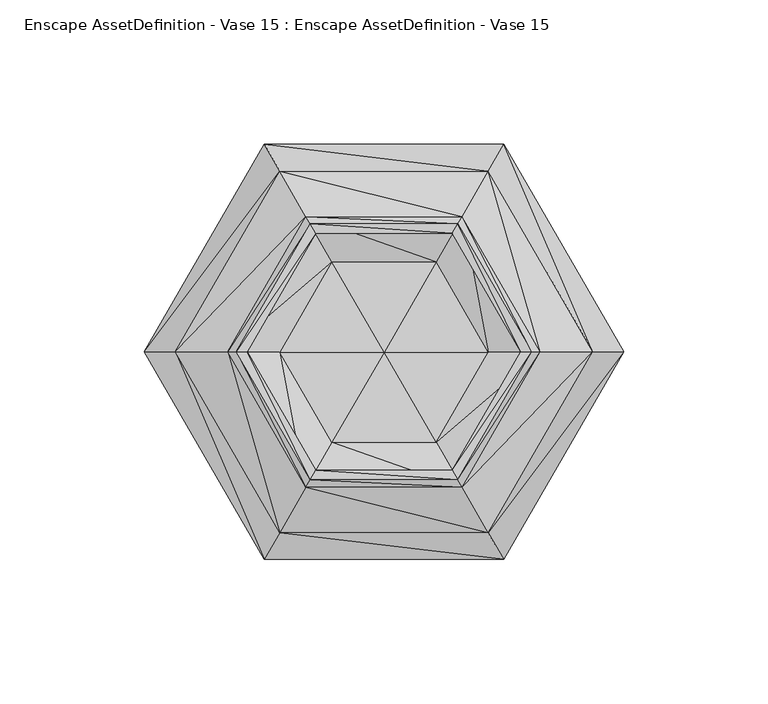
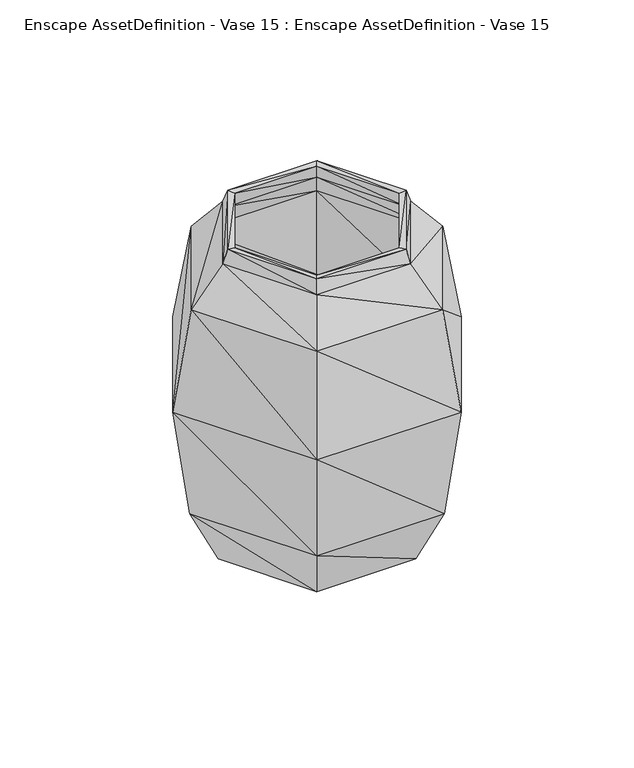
"""IFC4 building model written with IfcOpenShell, lengths in millimetres: geographic element geometry, Enscape AssetDefinition - Vase 15 : Enscape AssetDefinition - Vase 15."""

from ifc_helpers import new_model, si_unit, origin, place, context, project, spatial, faceted_brep, source, transform, mapped, element, save


def enscape_assetdefinition_vase_15_enscape_assetdefinition_vase_f9fe4993(model_context):
    return source(origin(), model_context, "Body", "Brep", [
        faceted_brep([(41.4660014, 71.8209967, 111.575), (72.2159967, 0.0, 170.055002), (82.930997, 0.0, 111.575), (36.1079983, 62.5410005, 170.055002), (36.1079983, -62.5410005, 170.055002), (54.0199988, 0.0, 191.6279942), (27.0099994, -46.7830002, 191.6279942), (-41.4660014, 71.8209967, 111.575), (-36.1079983, 62.5410005, 170.055002), (27.0099994, 46.7830002, 191.6279942), (51.1769988, 0.0, 199.3049979), (25.5880002, -44.3199985, 199.3049979), (-27.0099994, -46.7830002, 191.6279942), (-25.5880002, -44.3199985, 199.3049979), (-23.6770008, -41.0090014, 198.8549978), (23.6770008, -41.0090014, 198.8549978), (25.5880002, 44.3199985, 199.3049979), (47.3529994, 0.0, 198.8549978), (-25.2509993, -43.7359996, 189.8580045), (25.2509993, -43.7359996, 189.8580045), (-47.3529994, 0.0, 198.8549978), (-50.5019985, 0.0, 189.8580045), (-68.4949979, 0.0, 168.9410061), (-34.2479981, -59.3190007, 168.9410061), (34.2479981, -59.3190007, 168.9410061), (50.5019985, 0.0, 189.8580045), (-77.9419988, 0.0, 111.8130013), (-38.9709994, -67.4989969, 111.8130013), (-34.2479981, 59.3190007, 168.9410061), (-38.9709994, 67.4989969, 111.8130013), (-34.5849991, 59.9029996, 46.8120016), (-69.1699982, 0.0, 46.8120016), (38.9709994, -67.4989969, 111.8130013), (-34.5849991, -59.9029996, 46.8120016), (-27.2749998, 47.2420007, 15.5490004), (-54.5499995, 0.0, 15.5490004), (34.5849991, 59.9029996, 46.8120016), (27.2749998, 47.2420007, 15.5490004), (18.0539992, 31.2700011, 4.528), (-18.0539992, 31.2700011, 4.528), (-27.2749998, -47.2420007, 15.5490004), (-36.107, 0.0, 4.528), (0.0, 0.0, 4.528), (36.107, 0.0, 4.528), (54.5499995, 0.0, 15.5490004), (18.0539992, -31.2700011, 4.528), (-18.0539992, -31.2700011, 4.528), (27.2749998, -47.2420007, 15.5490004), (34.5849991, -59.9029996, 46.8120016), (69.1699982, 0.0, 46.8120016), (38.9709994, 67.4989969, 111.8130013), (77.9419988, 0.0, 111.8130013), (34.2479981, 59.3190007, 168.9410061), (68.4949979, 0.0, 168.9410061), (25.2509993, 43.7359996, 189.8580045), (-25.2509993, 43.7359996, 189.8580045), (23.6770008, 41.0090014, 198.8549978), (-23.6770008, 41.0090014, 198.8549978), (-25.5880002, 44.3199985, 199.3049979), (-51.1769988, 0.0, 199.3049979), (-27.0099994, 46.7830002, 191.6279942), (-54.0199988, 0.0, 191.6279942), (-72.2159967, 0.0, 170.055002), (-36.1079983, -62.5410005, 170.055002), (-82.930997, 0.0, 111.575), (-41.4660014, -71.8209967, 111.575), (41.4660014, -71.8209967, 111.575), (-36.4959985, -63.2119998, 46.4630015), (36.4959985, -63.2119998, 46.4630015), (-72.9909986, 0.0, 46.4630015), (-28.3950008, -49.1820015, 13.2980002), (28.3950008, -49.1820015, 13.2980002), (56.7900017, 0.0, 13.2980002), (72.9909986, 0.0, 46.4630015), (17.6810008, -30.6240004, 0.011), (35.3620015, 0.0, 0.011), (-56.7900017, 0.0, 13.2980002), (-17.6810008, -30.6240004, 0.011), (0.0, 0.0, 0.011), (17.6810008, 30.6240004, 0.011), (28.3950008, 49.1820015, 13.2980002), (-17.6810008, 30.6240004, 0.011), (-35.3620015, 0.0, 0.011), (-28.3950008, 49.1820015, 13.2980002), (-36.4959985, 63.2119998, 46.4630015), (36.4959985, 63.2119998, 46.4630015)], [[[0, 1, 2]], [[3, 1, 0]], [[1, 4, 2]], [[3, 5, 1]], [[1, 6, 4]], [[5, 6, 1]], [[7, 3, 0]], [[8, 3, 7]], [[9, 5, 3]], [[8, 9, 3]], [[9, 10, 5]], [[5, 11, 6]], [[10, 11, 5]], [[6, 12, 4]], [[6, 13, 12]], [[11, 13, 6]], [[11, 14, 13]], [[15, 14, 11]], [[10, 15, 11]], [[16, 17, 10]], [[17, 15, 10]], [[16, 10, 9]], [[15, 18, 14]], [[19, 18, 15]], [[17, 19, 15]], [[14, 20, 13]], [[14, 21, 20]], [[18, 21, 14]], [[18, 22, 21]], [[23, 22, 18]], [[19, 23, 18]], [[24, 23, 19]], [[25, 24, 19]], [[25, 19, 17]], [[23, 26, 22]], [[27, 26, 23]], [[24, 27, 23]], [[22, 28, 21]], [[22, 29, 28]], [[26, 29, 22]], [[26, 30, 29]], [[31, 30, 26]], [[27, 31, 26]], [[32, 27, 24]], [[33, 31, 27]], [[32, 33, 27]], [[31, 34, 30]], [[35, 34, 31]], [[33, 35, 31]], [[30, 36, 29]], [[30, 37, 36]], [[34, 37, 30]], [[34, 38, 37]], [[39, 38, 34]], [[35, 39, 34]], [[40, 35, 33]], [[41, 39, 35]], [[40, 41, 35]], [[39, 42, 38]], [[41, 42, 39]], [[38, 43, 37]], [[38, 42, 43]], [[37, 44, 36]], [[37, 43, 44]], [[43, 45, 44]], [[43, 42, 45]], [[46, 42, 41]], [[45, 42, 46]], [[46, 41, 40]], [[47, 46, 40]], [[45, 46, 47]], [[48, 40, 33]], [[47, 40, 48]], [[49, 47, 48]], [[44, 47, 49]], [[44, 45, 47]], [[36, 44, 49]], [[50, 49, 51]], [[36, 49, 50]], [[49, 48, 51]], [[48, 33, 32]], [[51, 48, 32]], [[52, 51, 53]], [[50, 51, 52]], [[51, 32, 53]], [[28, 50, 52]], [[29, 50, 28]], [[29, 36, 50]], [[52, 53, 54]], [[55, 52, 54]], [[28, 52, 55]], [[54, 53, 25]], [[53, 24, 25]], [[53, 32, 24]], [[54, 25, 56]], [[57, 54, 56]], [[55, 54, 57]], [[21, 28, 55]], [[20, 55, 57]], [[21, 55, 20]], [[57, 56, 58]], [[59, 57, 58]], [[20, 57, 59]], [[56, 17, 16]], [[58, 56, 16]], [[56, 25, 17]], [[58, 16, 60]], [[61, 58, 60]], [[59, 58, 61]], [[13, 20, 59]], [[12, 59, 61]], [[13, 59, 12]], [[61, 60, 62]], [[63, 61, 62]], [[12, 61, 63]], [[60, 9, 8]], [[62, 60, 8]], [[60, 16, 9]], [[62, 8, 64]], [[65, 62, 64]], [[63, 62, 65]], [[66, 63, 65]], [[4, 63, 66]], [[4, 12, 63]], [[65, 64, 67]], [[68, 65, 67]], [[66, 65, 68]], [[64, 8, 7]], [[64, 7, 69]], [[67, 64, 69]], [[67, 69, 70]], [[71, 67, 70]], [[68, 67, 71]], [[72, 68, 71]], [[73, 68, 72]], [[73, 66, 68]], [[71, 70, 74]], [[75, 71, 74]], [[72, 71, 75]], [[70, 69, 76]], [[70, 76, 77]], [[74, 70, 77]], [[74, 77, 78]], [[75, 74, 78]], [[79, 72, 75]], [[79, 75, 78]], [[80, 73, 72]], [[80, 72, 79]], [[81, 80, 79]], [[81, 79, 78]], [[82, 81, 78]], [[77, 82, 78]], [[77, 76, 82]], [[82, 83, 81]], [[76, 83, 82]], [[76, 84, 83]], [[69, 84, 76]], [[83, 85, 80]], [[84, 85, 83]], [[83, 80, 81]], [[85, 73, 80]], [[85, 2, 73]], [[0, 2, 85]], [[84, 0, 85]], [[7, 0, 84]], [[69, 7, 84]], [[2, 4, 66]], [[2, 66, 73]]]),
    ])


if __name__ == "__main__":
    model = new_model("IFC4")
    model_context = context("Model", 3, world=origin())
    ifc_project = project(units=[si_unit("LENGTHUNIT", "METRE", prefix="MILLI")], contexts=[model_context])
    site = spatial("IfcSite", under=ifc_project)
    building = spatial("IfcBuilding", under=site)
    placement = place(None, origin())
    enscape_assetdefinition_vase_15_enscape_assetdefinition_vase_shape = enscape_assetdefinition_vase_15_enscape_assetdefinition_vase_f9fe4993(model_context)
    element("IfcGeographicElement", 1, ObjectType="Enscape AssetDefinition - Vase 15 : Enscape AssetDefinition - Vase 15", at=placement, inside=building, context=model_context, shape_type="MappedRepresentation", body=[
        mapped(enscape_assetdefinition_vase_15_enscape_assetdefinition_vase_shape, transform((0.0, 0.0, 0.0), x_axis=(1.0, 0.0, 0.0), y_axis=(0.0, 1.0, 0.0), z_axis=(0.0, 0.0, 1.0))),
    ])
    save(model, "model.ifc")
